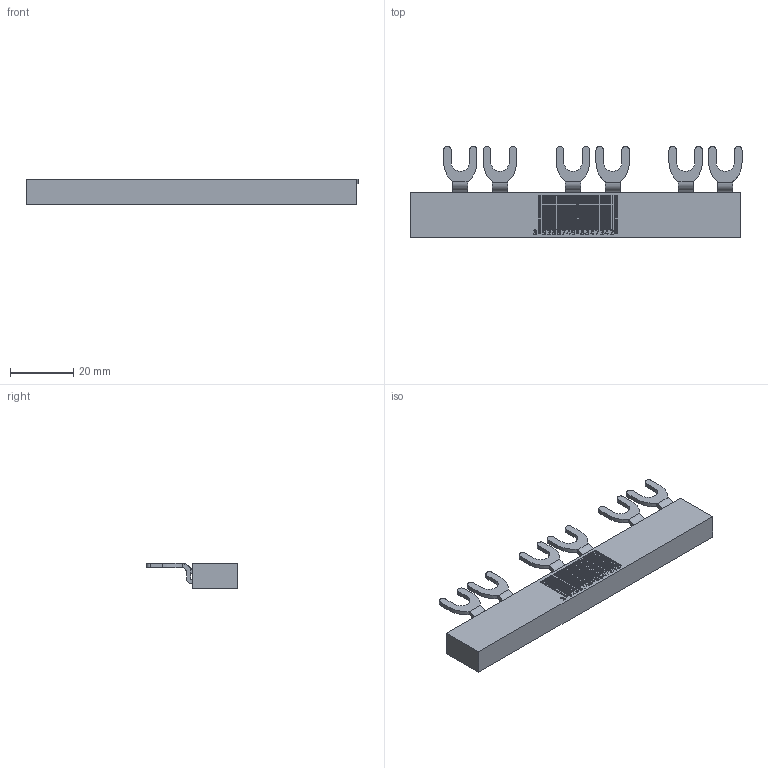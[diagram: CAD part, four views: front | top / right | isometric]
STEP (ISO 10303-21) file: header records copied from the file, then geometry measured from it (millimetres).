
FILE_DESCRIPTION (( 'STEP AP214' ), '1' );
FILE_NAME ('Kamrail 2P 3V.STEP', '2025-07-29T13:29:44', ( '' ), ( '' ), 'SwSTEP 2.0', 'SolidWorks 2025', '' );
FILE_SCHEMA (( 'AUTOMOTIVE_DESIGN' ));
Length unit declared in the file: millimetre
Products named in the file (4): 104.5; 104.5 1 v 2; Kamrail 2P 3V; 104.5 2 v 2
Assembly tree (3 placements, depth 2):
  Kamrail 2P 3V
    104.5
    104.5 1 v 2
    104.5 2 v 2
Bounding box: 104.6 x 28.8 x 7.9 mm (x, y, z)
Volume: 9468.1 mm3; surface area: 15146.9 mm2
Topology: 3 solids, 3 shells, 1054 faces, 2760 edges, 1840 vertices
Faces by surface type: plane 794, bspline 154, cylinder 106
Entity records: 38871 total; most frequent: CARTESIAN_POINT 13608, ORIENTED_EDGE 5520, DIRECTION 4458, EDGE_CURVE 2760, VECTOR 2222, LINE 2222, VERTEX_POINT 1840, EDGE_LOOP 1182
